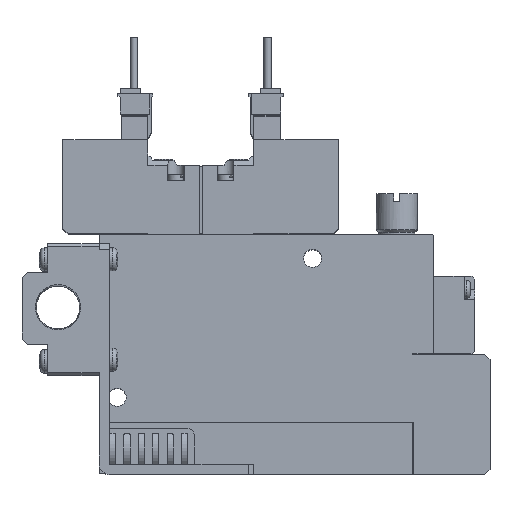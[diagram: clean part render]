
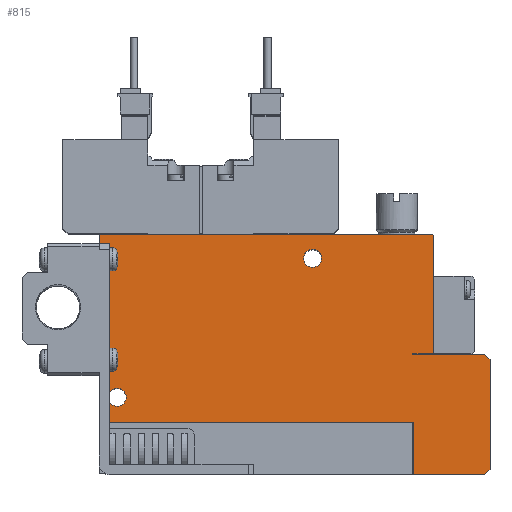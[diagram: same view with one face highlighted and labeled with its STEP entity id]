
A CAD part, top view. The second image highlights one B-rep face of the part: STEP entity #815.
In plain terms, the highlighted planar face has unit normal (0, 0, 1).
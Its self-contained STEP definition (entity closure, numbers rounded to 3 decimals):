
#815=ADVANCED_FACE('',(#1860,#1861,#1862),#1863,.F.);
#1860=FACE_OUTER_BOUND('',#3343,.T.);
#1861=FACE_BOUND('',#3344,.T.);
#1862=FACE_BOUND('',#3345,.T.);
#1863=PLANE('',#3346);
#3343=EDGE_LOOP('',(#6955,#6956,#6957,#6958,#6959,#6960,#6961,#6962,#6963,#6964,#6965,#6966,#6967,#6968));
#3344=EDGE_LOOP('',(#6969));
#3345=EDGE_LOOP('',(#6970));
#3346=AXIS2_PLACEMENT_3D('',#6971,#6972,#6973);
#6955=ORIENTED_EDGE('',*,*,#10303,.T.);
#6956=ORIENTED_EDGE('',*,*,#10304,.F.);
#6957=ORIENTED_EDGE('',*,*,#10276,.F.);
#6958=ORIENTED_EDGE('',*,*,#10305,.T.);
#6959=ORIENTED_EDGE('',*,*,#10249,.T.);
#6960=ORIENTED_EDGE('',*,*,#10306,.T.);
#6961=ORIENTED_EDGE('',*,*,#10301,.T.);
#6962=ORIENTED_EDGE('',*,*,#10307,.T.);
#6963=ORIENTED_EDGE('',*,*,#10308,.T.);
#6964=ORIENTED_EDGE('',*,*,#10238,.T.);
#6965=ORIENTED_EDGE('',*,*,#10071,.T.);
#6966=ORIENTED_EDGE('',*,*,#10262,.T.);
#6967=ORIENTED_EDGE('',*,*,#10309,.T.);
#6968=ORIENTED_EDGE('',*,*,#10245,.T.);
#6969=ORIENTED_EDGE('',*,*,#10310,.F.);
#6970=ORIENTED_EDGE('',*,*,#10145,.F.);
#6971=CARTESIAN_POINT('',(0.0,0.0,5.0));
#6972=DIRECTION('',(0.0,0.0,-1.0));
#6973=DIRECTION('',(0.0,-1.0,0.0));
#10071=EDGE_CURVE('',#12241,#12239,#12242,.T.);
#10145=EDGE_CURVE('',#12376,#12376,#12377,.T.);
#10238=EDGE_CURVE('',#12531,#12241,#12532,.T.);
#10245=EDGE_CURVE('',#12542,#12540,#12543,.T.);
#10249=EDGE_CURVE('',#12550,#12548,#12551,.T.);
#10262=EDGE_CURVE('',#12239,#12572,#12574,.T.);
#10276=EDGE_CURVE('',#12594,#12596,#12597,.T.);
#10301=EDGE_CURVE('',#12631,#12629,#12632,.T.);
#10303=EDGE_CURVE('',#12540,#12634,#12635,.T.);
#10304=EDGE_CURVE('',#12596,#12634,#12636,.T.);
#10305=EDGE_CURVE('',#12594,#12550,#12637,.T.);
#10306=EDGE_CURVE('',#12548,#12631,#12638,.T.);
#10307=EDGE_CURVE('',#12629,#12639,#12640,.T.);
#10308=EDGE_CURVE('',#12639,#12531,#12641,.T.);
#10309=EDGE_CURVE('',#12572,#12542,#12642,.T.);
#10310=EDGE_CURVE('',#12643,#12643,#12644,.T.);
#12239=VERTEX_POINT('',#15807);
#12241=VERTEX_POINT('',#15810);
#12242=LINE('',#15811,#15812);
#12376=VERTEX_POINT('',#16051);
#12377=CIRCLE('',#16052,1.75);
#12531=VERTEX_POINT('',#16308);
#12532=LINE('',#16309,#16310);
#12540=VERTEX_POINT('',#16321);
#12542=VERTEX_POINT('',#16324);
#12543=LINE('',#16325,#16326);
#12548=VERTEX_POINT('',#16333);
#12550=VERTEX_POINT('',#16336);
#12551=LINE('',#16337,#16338);
#12572=VERTEX_POINT('',#16370);
#12574=LINE('',#16373,#16374);
#12594=VERTEX_POINT('',#16406);
#12596=VERTEX_POINT('',#16409);
#12597=LINE('',#16410,#16411);
#12629=VERTEX_POINT('',#16481);
#12631=VERTEX_POINT('',#16484);
#12632=LINE('',#16485,#16486);
#12634=VERTEX_POINT('',#16489);
#12635=LINE('',#16490,#16491);
#12636=LINE('',#16492,#16493);
#12637=LINE('',#16494,#16495);
#12638=LINE('',#16496,#16497);
#12639=VERTEX_POINT('',#16498);
#12640=LINE('',#16499,#16500);
#12641=LINE('',#16501,#16502);
#12642=LINE('',#16503,#16504);
#12643=VERTEX_POINT('',#16505);
#12644=CIRCLE('',#16506,1.75);
#15807=CARTESIAN_POINT('',(65.0,46.4,5.0));
#15810=CARTESIAN_POINT('',(65.0,23.5,5.0));
#15811=CARTESIAN_POINT('',(65.0,23.5,5.0));
#15812=VECTOR('',#19750,1.0);
#16051=CARTESIAN_POINT('',(43.25,42.0,5.0));
#16052=AXIS2_PLACEMENT_3D('',#19854,#19855,#19856);
#16308=CARTESIAN_POINT('',(61.0,23.5,5.0));
#16309=CARTESIAN_POINT('',(61.0,23.5,5.0));
#16310=VECTOR('',#19978,1.0);
#16321=CARTESIAN_POINT('',(0.0,46.4,5.0));
#16324=CARTESIAN_POINT('',(0.2,46.6,5.0));
#16325=CARTESIAN_POINT('',(0.2,46.6,5.0));
#16326=VECTOR('',#19989,1.0);
#16333=CARTESIAN_POINT('',(76.0,1.0,5.0));
#16336=CARTESIAN_POINT('',(75.0,0.0,5.0));
#16337=CARTESIAN_POINT('',(75.0,0.0,5.0));
#16338=VECTOR('',#19993,1.0);
#16370=CARTESIAN_POINT('',(64.8,46.6,5.0));
#16373=CARTESIAN_POINT('',(65.0,46.4,5.0));
#16374=VECTOR('',#20006,1.0);
#16406=CARTESIAN_POINT('',(61.1,0.0,5.0));
#16409=CARTESIAN_POINT('',(61.1,10.1,5.0));
#16410=CARTESIAN_POINT('',(61.1,0.0,5.0));
#16411=VECTOR('',#20020,1.0);
#16481=CARTESIAN_POINT('',(75.0,23.25,5.0));
#16484=CARTESIAN_POINT('',(76.0,22.25,5.0));
#16485=CARTESIAN_POINT('',(76.0,22.25,5.0));
#16486=VECTOR('',#20047,1.0);
#16489=CARTESIAN_POINT('',(0.0,10.1,5.0));
#16490=CARTESIAN_POINT('',(0.0,46.4,5.0));
#16491=VECTOR('',#20049,1.0);
#16492=CARTESIAN_POINT('',(61.1,10.1,5.0));
#16493=VECTOR('',#20050,1.0);
#16494=CARTESIAN_POINT('',(0.0,0.0,5.0));
#16495=VECTOR('',#20051,1.0);
#16496=CARTESIAN_POINT('',(76.0,1.0,5.0));
#16497=VECTOR('',#20052,1.0);
#16498=CARTESIAN_POINT('',(61.0,23.25,5.0));
#16499=CARTESIAN_POINT('',(75.0,23.25,5.0));
#16500=VECTOR('',#20053,1.0);
#16501=CARTESIAN_POINT('',(61.0,23.25,5.0));
#16502=VECTOR('',#20054,1.0);
#16503=CARTESIAN_POINT('',(64.8,46.6,5.0));
#16504=VECTOR('',#20055,1.0);
#16505=CARTESIAN_POINT('',(5.25,15.0,5.0));
#16506=AXIS2_PLACEMENT_3D('',#20056,#20057,#20058);
#19750=DIRECTION('',(0.0,1.0,0.0));
#19854=CARTESIAN_POINT('',(41.5,42.0,5.0));
#19855=DIRECTION('',(0.0,0.0,1.0));
#19856=DIRECTION('',(1.0,0.0,0.0));
#19978=DIRECTION('',(1.0,0.,0.0));
#19989=DIRECTION('',(-0.707,-0.707,0.0));
#19993=DIRECTION('',(0.707,0.707,0.0));
#20006=DIRECTION('',(-0.707,0.707,0.0));
#20020=DIRECTION('',(0.0,1.0,0.0));
#20047=DIRECTION('',(-0.707,0.707,0.0));
#20049=DIRECTION('',(0.0,-1.0,0.0));
#20050=DIRECTION('',(-1.0,0.0,0.0));
#20051=DIRECTION('',(1.0,0.0,0.0));
#20052=DIRECTION('',(0.0,1.0,0.0));
#20053=DIRECTION('',(-1.0,0.0,0.0));
#20054=DIRECTION('',(0.0,1.0,0.0));
#20055=DIRECTION('',(-1.0,0.0,0.0));
#20056=CARTESIAN_POINT('',(3.5,15.0,5.0));
#20057=DIRECTION('',(0.0,0.0,1.0));
#20058=DIRECTION('',(1.0,0.0,0.0));
